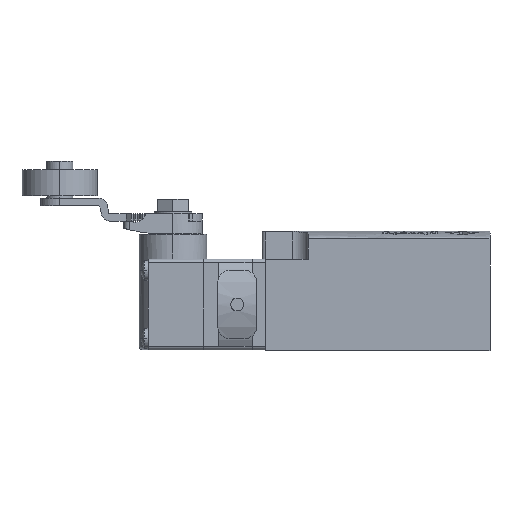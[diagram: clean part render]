
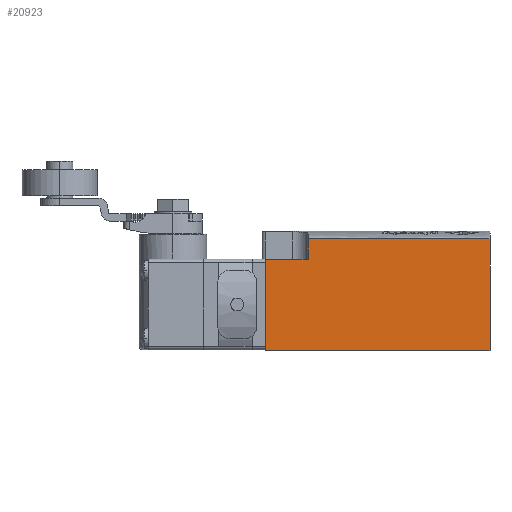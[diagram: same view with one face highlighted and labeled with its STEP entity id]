
A CAD part, left-side view. The second image highlights one B-rep face of the part: STEP entity #20923.
In plain terms, the highlighted planar face has unit normal (-1, 0, 0).
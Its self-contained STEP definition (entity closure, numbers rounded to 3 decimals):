
#264 = DIRECTION ( 'NONE',  ( 1., 0., 0. ) ) ;
#878 = CARTESIAN_POINT ( 'NONE',  ( -15.6, -31.5, -12.2 ) ) ;
#1156 = DIRECTION ( 'NONE',  ( 0., -1., 0. ) ) ;
#1538 = EDGE_CURVE ( 'NONE', #4559, #6035, #8063, .T. ) ;
#2067 = CARTESIAN_POINT ( 'NONE',  ( -15.6, -31.5, 17.4 ) ) ;
#2532 = CARTESIAN_POINT ( 'NONE',  ( -15.6, -31.5, 19.4 ) ) ;
#2623 = CARTESIAN_POINT ( 'NONE',  ( -15.6, 16.7, 17.4 ) ) ;
#3605 = VERTEX_POINT ( 'NONE', #27373 ) ;
#3994 = EDGE_CURVE ( 'NONE', #15525, #16579, #13254, .T. ) ;
#4559 = VERTEX_POINT ( 'NONE', #17959 ) ;
#5003 = EDGE_CURVE ( 'NONE', #6348, #4559, #33698, .T. ) ;
#5846 = DIRECTION ( 'NONE',  ( 0., 1., 0. ) ) ;
#6035 = VERTEX_POINT ( 'NONE', #878 ) ;
#6348 = VERTEX_POINT ( 'NONE', #18425 ) ;
#7702 = CARTESIAN_POINT ( 'NONE',  ( -15.6, -31.5, -12.2 ) ) ;
#8063 = LINE ( 'NONE', #7702, #16368 ) ;
#8613 = DIRECTION ( 'NONE',  ( 0., 0., -1. ) ) ;
#9886 = EDGE_CURVE ( 'NONE', #6348, #3605, #31106, .T. ) ;
#10306 = CARTESIAN_POINT ( 'NONE',  ( -15.6, -15.433, 17.4 ) ) ;
#11577 = CARTESIAN_POINT ( 'NONE',  ( -15.6, -31.5, 19.4 ) ) ;
#13254 = B_SPLINE_CURVE_WITH_KNOTS ( 'NONE', 3,
 ( #2067, #10306, #29488, #30195 ),
 .UNSPECIFIED., .F., .F.,
 ( 4, 4 ),
 ( 0., 1. ),
 .UNSPECIFIED. ) ;
#13449 = ORIENTED_EDGE ( 'NONE', *, *, #3994, .T. ) ;
#13469 = ORIENTED_EDGE ( 'NONE', *, *, #31304, .F. ) ;
#14016 = VECTOR ( 'NONE', #14688, 1000. ) ;
#14279 = FACE_OUTER_BOUND ( 'NONE', #16006, .T. ) ;
#14631 = PLANE ( 'NONE',  #22420 ) ;
#14688 = DIRECTION ( 'NONE',  ( 0., 0., -1. ) ) ;
#14822 = ORIENTED_EDGE ( 'NONE', *, *, #1538, .T. ) ;
#15525 = VERTEX_POINT ( 'NONE', #29340 ) ;
#16006 = EDGE_LOOP ( 'NONE', ( #13469, #13449, #33460, #16040, #21033, #14822 ) ) ;
#16040 = ORIENTED_EDGE ( 'NONE', *, *, #9886, .F. ) ;
#16368 = VECTOR ( 'NONE', #18644, 1000. ) ;
#16579 = VERTEX_POINT ( 'NONE', #2623 ) ;
#17959 = CARTESIAN_POINT ( 'NONE',  ( -15.6, 28., -12.2 ) ) ;
#18425 = CARTESIAN_POINT ( 'NONE',  ( -15.6, 28., 12. ) ) ;
#18644 = DIRECTION ( 'NONE',  ( 0., -1., 0. ) ) ;
#20442 = CARTESIAN_POINT ( 'NONE',  ( -15.6, 28., 19.4 ) ) ;
#20923 = ADVANCED_FACE ( 'NONE', ( #14279 ), #14631, .F. ) ;
#21033 = ORIENTED_EDGE ( 'NONE', *, *, #5003, .T. ) ;
#21883 = EDGE_CURVE ( 'NONE', #3605, #16579, #23156, .T. ) ;
#21907 = VECTOR ( 'NONE', #31227, 1000. ) ;
#22420 = AXIS2_PLACEMENT_3D ( 'NONE', #11577, #264, #5846 ) ;
#23156 = LINE ( 'NONE', #28539, #21907 ) ;
#26336 = VECTOR ( 'NONE', #1156, 1000. ) ;
#27373 = CARTESIAN_POINT ( 'NONE',  ( -15.6, 16.7, 12. ) ) ;
#28539 = CARTESIAN_POINT ( 'NONE',  ( -15.6, 16.7, 12. ) ) ;
#29340 = CARTESIAN_POINT ( 'NONE',  ( -15.6, -31.5, 17.4 ) ) ;
#29488 = CARTESIAN_POINT ( 'NONE',  ( -15.6, 0.633, 17.4 ) ) ;
#30084 = VECTOR ( 'NONE', #8613, 1000. ) ;
#30195 = CARTESIAN_POINT ( 'NONE',  ( -15.6, 16.7, 17.4 ) ) ;
#31106 = LINE ( 'NONE', #33247, #26336 ) ;
#31227 = DIRECTION ( 'NONE',  ( 0., 0., 1. ) ) ;
#31304 = EDGE_CURVE ( 'NONE', #15525, #6035, #33174, .T. ) ;
#33174 = LINE ( 'NONE', #2532, #30084 ) ;
#33247 = CARTESIAN_POINT ( 'NONE',  ( -15.6, 28., 12. ) ) ;
#33460 = ORIENTED_EDGE ( 'NONE', *, *, #21883, .F. ) ;
#33698 = LINE ( 'NONE', #20442, #14016 ) ;
